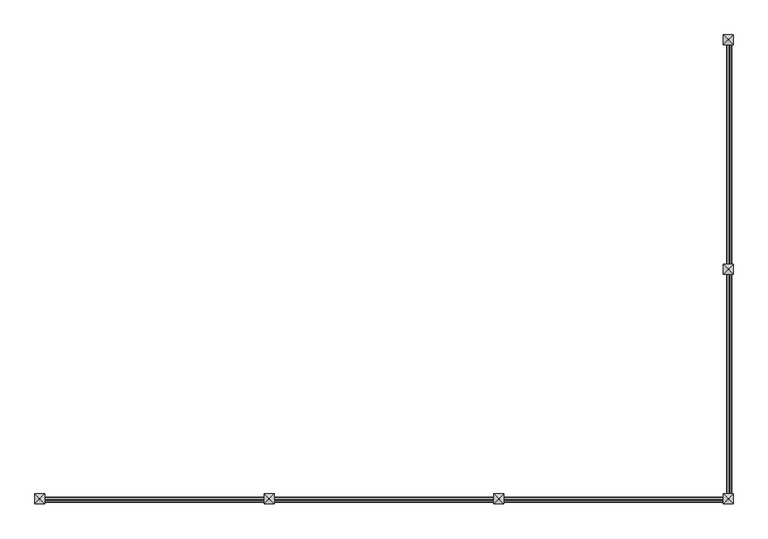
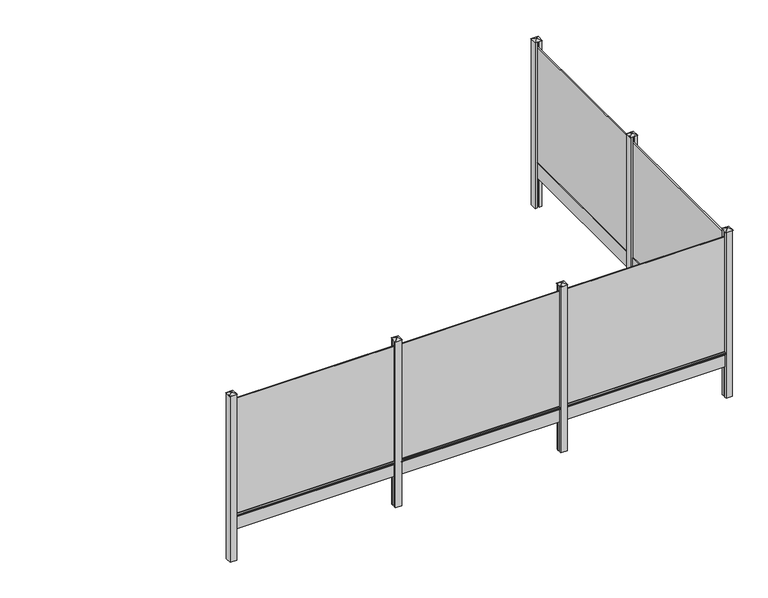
"""IFC4 building model written with IfcOpenShell, lengths in millimetres: railing geometry, Mehat - Railing - Plaque de Soubassement - Classique pour clôture rigide - 254x25x3.4 cm."""

import ifcopenshell
import ifcopenshell.guid

model = None  # the IFC model being written
_history = None  # IfcOwnerHistory: only IFC2X3 demands one
_inside = {}  # id of a spatial element -> (the spatial element, [elements in it])
_under = {}  # id of a project, library or spatial element -> (it, [spatial elements below it])
_declared = {}  # id of a project -> (the project, [libraries it declares])
_typed = {}  # id of a type object -> (the type object, [elements of that type])
_made_of = {}  # id of a material, layer set ... -> (it, [elements and type objects made of it])


def new_model(schema):
    """Start an empty IFC model of exactly this schema.

    Asked for "IFC4X3", IfcOpenShell would pick the latest addendum, in which some entities
    have other attributes; the version numbers below select the first issue.
    IFC2X3 requires an IfcOwnerHistory on every rooted entity: one is made here for all.
    """
    global model, _history
    if schema == "IFC4X3":
        model = ifcopenshell.file(schema_version=(4, 3, 0, 0))
    else:
        model = ifcopenshell.file(schema=schema)
    _inside.clear()
    _under.clear()
    _declared.clear()
    _typed.clear()
    _made_of.clear()
    _history = None
    if model.schema == "IFC2X3":
        org = make("IfcOrganization", Name="unknown")
        user = make(
            "IfcPersonAndOrganization",
            ThePerson=make("IfcPerson", FamilyName="unknown"),
            TheOrganization=org,
        )
        app = make(
            "IfcApplication",
            ApplicationDeveloper=org,
            Version="unknown",
            ApplicationFullName="unknown",
            ApplicationIdentifier="unknown",
        )
        _history = make(
            "IfcOwnerHistory",
            OwningUser=user,
            OwningApplication=app,
            ChangeAction="ADDED",
            CreationDate=0,
        )
    return model


def make(cls, **values):
    """One entity of the class cls with the attributes given. An attribute that is None is left unset."""
    return model.create_entity(
        cls, **{name: value for name, value in values.items() if value is not None}
    )


def rooted(cls, **values):
    """An entity with a GlobalId (a new one), such as an element, a storey or a relation."""
    return make(cls, GlobalId=ifcopenshell.guid.new(), OwnerHistory=_history, **values)


def si_unit(unit_type, name, prefix=None):
    """IfcSIUnit, for example si_unit("LENGTHUNIT", "METRE", prefix="MILLI")."""
    return make("IfcSIUnit", UnitType=unit_type, Prefix=prefix, Name=name)


def assignment(units):
    """IfcUnitAssignment: the units of a project."""
    return None if units is None else make("IfcUnitAssignment", Units=units)


def point(xyz):
    """IfcCartesianPoint."""
    return None if xyz is None else make("IfcCartesianPoint", Coordinates=xyz)


def direction(xyz):
    """IfcDirection."""
    return None if xyz is None else make("IfcDirection", DirectionRatios=xyz)


def frame(location, z_axis=None, x_axis=None):
    """IfcAxis2Placement3D, a coordinate frame: its origin and axes. An axis left out is left unset."""
    return make(
        "IfcAxis2Placement3D",
        Location=point(location),
        Axis=direction(z_axis),
        RefDirection=direction(x_axis),
    )


def frame_2d(location, x_axis=None):
    """IfcAxis2Placement2D, a coordinate frame in the plane: its origin and x axis."""
    return make(
        "IfcAxis2Placement2D", Location=point(location), RefDirection=direction(x_axis)
    )


def origin():
    """The frame at (0, 0, 0) with its axes left unset."""
    return frame((0.0, 0.0, 0.0))


def origin_with_axes():
    """The frame at (0, 0, 0) with the z axis (0, 0, 1) and the x axis (1, 0, 0) written out."""
    return frame((0.0, 0.0, 0.0), z_axis=(0.0, 0.0, 1.0), x_axis=(1.0, 0.0, 0.0))


def place(relative_to, where):
    """IfcLocalPlacement: puts the frame where relative to a parent placement (None: the world)."""
    return make(
        "IfcLocalPlacement", PlacementRelTo=relative_to, RelativePlacement=where
    )


def context(
    kind, dimensions, precision=None, world=None, true_north=None, identifier=None
):
    """IfcGeometricRepresentationContext, for example the 3D "Model" context."""
    return make(
        "IfcGeometricRepresentationContext",
        ContextIdentifier=identifier,
        ContextType=kind,
        CoordinateSpaceDimension=dimensions,
        Precision=precision,
        WorldCoordinateSystem=world,
        TrueNorth=true_north,
    )


def project(units=None, contexts=None):
    """IfcProject with its units and contexts."""
    return rooted(
        "IfcProject",
        Name="project",
        RepresentationContexts=contexts,
        UnitsInContext=assignment(units),
    )


def spatial(cls, under=None, at=None, **own):
    """A site, building, storey or space (cls), placed at a placement, below another one or the project."""
    s = rooted(cls, ObjectPlacement=at, **own)
    if under is not None:
        _under.setdefault(under.id(), (under, []))[1].append(s)
    return s


def polyline(points):
    """IfcPolyline through the points."""
    return make("IfcPolyline", Points=[point(p) for p in points])


def circle_curve(where, radius):
    """IfcCircle in the frame where."""
    return make("IfcCircle", Position=where, Radius=radius)


def trimmed(basis, trim1, trim2, sense, master):
    """IfcTrimmedCurve: the piece of a basis curve between two trims."""
    return make(
        "IfcTrimmedCurve",
        BasisCurve=basis,
        Trim1=trim1,
        Trim2=trim2,
        SenseAgreement=sense,
        MasterRepresentation=master,
    )


def segment(curve, same_sense, transition):
    """IfcCompositeCurveSegment."""
    return make(
        "IfcCompositeCurveSegment",
        Transition=transition,
        SameSense=same_sense,
        ParentCurve=curve,
    )


def composite_curve(segments, self_intersect=None):
    """IfcCompositeCurve: segments joined end to end."""
    return make("IfcCompositeCurve", Segments=segments, SelfIntersect=self_intersect)


def outline(outer, holes=None, kind="AREA"):
    """IfcArbitraryClosedProfileDef: a profile drawn as a closed curve; with holes, ...WithVoids."""
    if holes is None:
        return make("IfcArbitraryClosedProfileDef", ProfileType=kind, OuterCurve=outer)
    return make(
        "IfcArbitraryProfileDefWithVoids",
        ProfileType=kind,
        OuterCurve=outer,
        InnerCurves=holes,
    )


def extrude(swept, where, along, depth):
    """IfcExtrudedAreaSolid: the profile swept, set in the frame where, extruded along a direction by depth."""
    return make(
        "IfcExtrudedAreaSolid",
        SweptArea=swept,
        Position=where,
        ExtrudedDirection=direction(along),
        Depth=depth,
    )


def faces_of(points, faces, orient=None, outer=None):
    """IfcFace entities. A face is a list of loops; a loop is a list of indices into points, from 0.

    orient and outer hold one flag for each loop. By default every Orientation is true, the
    first loop of a face is its IfcFaceOuterBound and the others are IfcFaceBound.
    """
    made = []
    for i, loops in enumerate(faces):
        bounds = []
        for j, loop in enumerate(loops):
            is_outer = j == 0 if outer is None else outer[i][j]
            bounds.append(
                make(
                    "IfcFaceOuterBound" if is_outer else "IfcFaceBound",
                    Bound=make("IfcPolyLoop", Polygon=[points[k] for k in loop]),
                    Orientation=True if orient is None else orient[i][j],
                )
            )
        made.append(make("IfcFace", Bounds=bounds))
    return made


def faceted_brep(points, faces, orient=None, outer=None, voids=None):
    """IfcFacetedBrep: a solid bounded by flat faces; with voids (closed shells), ...WithVoids."""
    shared = [point(p) for p in points]
    hull = make("IfcClosedShell", CfsFaces=faces_of(shared, faces, orient, outer))
    if voids is None:
        return make("IfcFacetedBrep", Outer=hull)
    return make(
        "IfcFacetedBrepWithVoids",
        Outer=hull,
        Voids=[
            make(cls, CfsFaces=faces_of(shared, fs, o, b)) for cls, fs, o, b in voids
        ],
    )


def shape(context_of_items, identifier, shape_type, items):
    """IfcShapeRepresentation: the items that make up one representation, for example the "Body"."""
    return make(
        "IfcShapeRepresentation",
        ContextOfItems=context_of_items,
        RepresentationIdentifier=identifier,
        RepresentationType=shape_type,
        Items=items,
    )


def source(mapping_origin, context_of_items, identifier, shape_type, items):
    """IfcRepresentationMap: a shape defined once, which mapped items show again and again."""
    return make(
        "IfcRepresentationMap",
        MappingOrigin=mapping_origin,
        MappedRepresentation=shape(context_of_items, identifier, shape_type, items),
    )


def transform(
    local_origin,
    x_axis=None,
    y_axis=None,
    z_axis=None,
    scale=None,
    scale2=None,
    scale3=None,
    uniform=True,
):
    """IfcCartesianTransformationOperator3D, or its non-uniform kind. x_axis, y_axis, z_axis: its Axis1, 2, 3."""
    if uniform:
        return make(
            "IfcCartesianTransformationOperator3D",
            Axis1=direction(x_axis),
            Axis2=direction(y_axis),
            LocalOrigin=point(local_origin),
            Scale=scale,
            Axis3=direction(z_axis),
        )
    return make(
        "IfcCartesianTransformationOperator3DnonUniform",
        Axis1=direction(x_axis),
        Axis2=direction(y_axis),
        LocalOrigin=point(local_origin),
        Scale=scale,
        Axis3=direction(z_axis),
        Scale2=scale2,
        Scale3=scale3,
    )


def mapped(mapping_source, mapping_target):
    """IfcMappedItem: shows the shape of a source again, moved by a transform."""
    return make(
        "IfcMappedItem", MappingSource=mapping_source, MappingTarget=mapping_target
    )


def made_of(thing, what):
    """Note that an element or type object is made of a material, layer set ...; save() writes the relation."""
    if what is not None:
        _made_of.setdefault(what.id(), (what, []))[1].append(thing)
    return thing


def element(
    cls,
    number,
    at=None,
    inside=None,
    cuts=None,
    type_object=None,
    material=None,
    context=None,
    identifier="Body",
    shape_type=None,
    held_by="IfcProductDefinitionShape",
    body=None,
    shapes=None,
    **own,
):
    """One element of the class cls, such as IfcWall. Its Tag is "e" and its number.

    at: its placement. inside: the storey or other place that contains it. cuts: it is an
    opening in that element (IfcRelVoidsElement). A single representation is given by context,
    identifier, shape_type and body (its items); several are given by shapes. held_by: the class
    of the entity that holds the representations. save() writes the other relations.
    """
    e = rooted(cls, Tag="e%d" % number, ObjectPlacement=at, **own)
    if body is not None:
        shapes = [shape(context, identifier, shape_type, body)]
    if shapes is not None:
        e.Representation = make(held_by, Representations=shapes)
    if inside is not None:
        _inside.setdefault(inside.id(), (inside, []))[1].append(e)
    if cuts is not None:
        rooted(
            "IfcRelVoidsElement", RelatingBuildingElement=cuts, RelatedOpeningElement=e
        )
    if type_object is not None:
        _typed.setdefault(type_object.id(), (type_object, []))[1].append(e)
    return made_of(e, material)


def aggregate(whole, parts):
    """IfcRelAggregates: a whole, such as a stair, and the parts it consists of."""
    return rooted("IfcRelAggregates", RelatingObject=whole, RelatedObjects=parts)


def save(model, path):
    """Write the relations noted so far, then the file.

    IfcRelAggregates (storeys below a building ...), IfcRelContainedInSpatialStructure (elements
    in a storey), IfcRelDefinesByType, IfcRelAssociatesMaterial and IfcRelDeclares: one each for
    every whole, place, type object, material and project.
    """
    for whole, parts in _under.values():
        aggregate(whole, parts)
    for where, things in _inside.values():
        rooted(
            "IfcRelContainedInSpatialStructure",
            RelatedElements=things,
            RelatingStructure=where,
        )
    for kind, things in _typed.values():
        rooted("IfcRelDefinesByType", RelatedObjects=things, RelatingType=kind)
    for what, things in _made_of.values():
        rooted("IfcRelAssociatesMaterial", RelatedObjects=things, RelatingMaterial=what)
    for by, libraries in _declared.values():
        rooted("IfcRelDeclares", RelatingContext=by, RelatedDefinitions=libraries)
    model.write(path)


def railing_ca63146d(model_context):
    return source(origin(), model_context, "Body", "SolidModel", [
        extrude(outline(polyline([(50796.2516516, -11087.4943936), (50779.2516516, -11087.4943936), (50779.2516516, -8547.4943936), (50796.2516516, -8547.4943936), (50796.2516516, -11087.4943936)])), frame((0.0, 0.0, 250.0), z_axis=(0.0, 0.0, 1.0), x_axis=(1.0, 0.0, 0.0)), (0.0, 0.0, 1.0), 1900.0),
        extrude(outline(polyline([(50804.7516516, -11087.4943936), (50770.7516516, -11087.4943936), (50770.7516516, -8547.4943936), (50804.7516516, -8547.4943936), (50804.7516516, -11087.4943936)])), origin_with_axes(), (0.0, 0.0, 1.0), 250.0),
        extrude(outline(composite_curve([segment(polyline([(210.0, 50804.7516516), (217.1937129, 50826.3327905)]), True, "CONTINUOUS"), segment(trimmed(circle_curve(frame_2d((221.9371294, 50824.7516516)), 5.0), [point((217.1937129, 50826.3327905))], [point((221.9371294, 50829.7516516))], False, "CARTESIAN"), True, "CONTINUOUS"), segment(polyline([(221.9371294, 50829.7516516), (238.0628706, 50829.7516516)]), True, "CONTINUOUS"), segment(trimmed(circle_curve(frame_2d((238.0628706, 50824.7516516)), 5.0), [point((238.0628706, 50829.7516516))], [point((242.8062871, 50826.3327905))], False, "CARTESIAN"), True, "CONTINUOUS"), segment(polyline([(242.8062871, 50826.3327905), (250.0, 50804.7516516), (210.0, 50804.7516516)]), True, "CONTINUOUS")], self_intersect=False)), frame((0.0, -11062.4943936, 0.0), z_axis=(0.0, 1.0, 0.0), x_axis=(0.0, 0.0, 1.0)), (0.0, 0.0, 1.0), 2490.0),
        extrude(outline(polyline([(50837.7516516, -11162.4943936), (50804.7516516, -11162.4943936), (50804.7516516, -11137.4943936), (50770.7516516, -11137.4943936), (50770.7516516, -11162.4943936), (50737.7516516, -11162.4943936), (50737.7516516, -11062.4943936), (50770.7516516, -11062.4943936), (50770.7516516, -11087.4943936), (50804.7516516, -11087.4943936), (50804.7516516, -11062.4943936), (50837.7516516, -11062.4943936), (50837.7516516, -11162.4943936)])), frame((0.0, 0.0, -500.0), z_axis=(0.0, 0.0, 1.0), x_axis=(1.0, 0.0, 0.0)), (0.0, 0.0, 1.0), 2750.0),
        faceted_brep([(50781.3471055, -11106.1443936, 2275.4), (50781.3471055, -11118.8443936, 2275.4), (50794.0471055, -11118.8443936, 2275.4), (50794.0471055, -11106.1443936, 2275.4), (50731.4016516, -11056.1443936, 2250.0), (50844.1016516, -11056.1443936, 2250.0), (50844.1016516, -11168.8443936, 2250.0), (50731.4016516, -11168.8443936, 2250.0)], [[[0, 1, 2, 3]], [[4, 5, 6, 7]], [[4, 0, 3, 5]], [[5, 3, 2, 6]], [[6, 2, 1, 7]], [[7, 1, 0, 4]]]),
        extrude(outline(polyline([(50796.2516516, -13677.4943936), (50779.2516516, -13677.4943936), (50779.2516516, -11137.4943936), (50796.2516516, -11137.4943936), (50796.2516516, -13677.4943936)])), frame((0.0, 0.0, 250.0), z_axis=(0.0, 0.0, 1.0), x_axis=(1.0, 0.0, 0.0)), (0.0, 0.0, 1.0), 1900.0),
        extrude(outline(polyline([(50804.7516516, -13677.4943936), (50770.7516516, -13677.4943936), (50770.7516516, -11137.4943936), (50804.7516516, -11137.4943936), (50804.7516516, -13677.4943936)])), origin_with_axes(), (0.0, 0.0, 1.0), 250.0),
        extrude(outline(composite_curve([segment(polyline([(210.0, 50804.7516516), (217.1937129, 50826.3327905)]), True, "CONTINUOUS"), segment(trimmed(circle_curve(frame_2d((221.9371294, 50824.7516516)), 5.0), [point((217.1937129, 50826.3327905))], [point((221.9371294, 50829.7516516))], False, "CARTESIAN"), True, "CONTINUOUS"), segment(polyline([(221.9371294, 50829.7516516), (238.0628706, 50829.7516516)]), True, "CONTINUOUS"), segment(trimmed(circle_curve(frame_2d((238.0628706, 50824.7516516)), 5.0), [point((238.0628706, 50829.7516516))], [point((242.8062871, 50826.3327905))], False, "CARTESIAN"), True, "CONTINUOUS"), segment(polyline([(242.8062871, 50826.3327905), (250.0, 50804.7516516), (210.0, 50804.7516516)]), True, "CONTINUOUS")], self_intersect=False)), frame((0.0, -13652.4943936, 0.0), z_axis=(0.0, 1.0, 0.0), x_axis=(0.0, 0.0, 1.0)), (0.0, 0.0, 1.0), 2490.0),
        extrude(outline(polyline([(48222.7516516, -13710.9943936), (48222.7516516, -13693.9943936), (50762.7516516, -13693.9943936), (50762.7516516, -13710.9943936), (48222.7516516, -13710.9943936)])), frame((0.0, 0.0, 250.0), z_axis=(0.0, 0.0, 1.0), x_axis=(1.0, 0.0, 0.0)), (0.0, 0.0, 1.0), 1900.0),
        extrude(outline(polyline([(48222.7516516, -13719.4943936), (48222.7516516, -13685.4943936), (50762.7516516, -13685.4943936), (50762.7516516, -13719.4943936), (48222.7516516, -13719.4943936)])), origin_with_axes(), (0.0, 0.0, 1.0), 250.0),
        extrude(outline(composite_curve([segment(polyline([(-13719.4943936, 210.0), (-13741.0755325, 217.1937129)]), True, "CONTINUOUS"), segment(trimmed(circle_curve(frame_2d((-13739.4943936, 221.9371294)), 5.0), [point((-13741.0755325, 217.1937129))], [point((-13744.4943936, 221.9371294))], False, "CARTESIAN"), True, "CONTINUOUS"), segment(polyline([(-13744.4943936, 221.9371294), (-13744.4943936, 238.0628706)]), True, "CONTINUOUS"), segment(trimmed(circle_curve(frame_2d((-13739.4943936, 238.0628706)), 5.0), [point((-13744.4943936, 238.0628706))], [point((-13741.0755325, 242.8062871))], False, "CARTESIAN"), True, "CONTINUOUS"), segment(polyline([(-13741.0755325, 242.8062871), (-13719.4943936, 250.0), (-13719.4943936, 210.0)]), True, "CONTINUOUS")], self_intersect=False)), frame((48247.7516516, 0.0, 0.0), z_axis=(1.0, 0.0, 0.0), x_axis=(0.0, 1.0, 0.0)), (0.0, 0.0, 1.0), 2490.0),
        extrude(outline(polyline([(48147.7516516, -13752.4943936), (48147.7516516, -13719.4943936), (48172.7516516, -13719.4943936), (48172.7516516, -13685.4943936), (48147.7516516, -13685.4943936), (48147.7516516, -13652.4943936), (48247.7516516, -13652.4943936), (48247.7516516, -13685.4943936), (48222.7516516, -13685.4943936), (48222.7516516, -13719.4943936), (48247.7516516, -13719.4943936), (48247.7516516, -13752.4943936), (48147.7516516, -13752.4943936)])), frame((0.0, 0.0, -500.0), z_axis=(0.0, 0.0, 1.0), x_axis=(1.0, 0.0, 0.0)), (0.0, 0.0, 1.0), 2750.0),
        faceted_brep([(48204.1016516, -13696.0898475, 2275.4), (48191.4016516, -13696.0898475, 2275.4), (48191.4016516, -13708.7898475, 2275.4), (48204.1016516, -13708.7898475, 2275.4), (48254.1016516, -13646.1443936, 2250.0), (48254.1016516, -13758.8443936, 2250.0), (48141.4016516, -13758.8443936, 2250.0), (48141.4016516, -13646.1443936, 2250.0)], [[[0, 1, 2, 3]], [[4, 5, 6, 7]], [[4, 0, 3, 5]], [[5, 3, 2, 6]], [[6, 2, 1, 7]], [[7, 1, 0, 4]]]),
        extrude(outline(polyline([(45632.7516516, -13710.9943936), (45632.7516516, -13693.9943936), (48172.7516516, -13693.9943936), (48172.7516516, -13710.9943936), (45632.7516516, -13710.9943936)])), frame((0.0, 0.0, 250.0), z_axis=(0.0, 0.0, 1.0), x_axis=(1.0, 0.0, 0.0)), (0.0, 0.0, 1.0), 1900.0),
        extrude(outline(polyline([(45632.7516516, -13719.4943936), (45632.7516516, -13685.4943936), (48172.7516516, -13685.4943936), (48172.7516516, -13719.4943936), (45632.7516516, -13719.4943936)])), origin_with_axes(), (0.0, 0.0, 1.0), 250.0),
        extrude(outline(composite_curve([segment(polyline([(-13719.4943936, 210.0), (-13741.0755325, 217.1937129)]), True, "CONTINUOUS"), segment(trimmed(circle_curve(frame_2d((-13739.4943936, 221.9371294)), 5.0), [point((-13741.0755325, 217.1937129))], [point((-13744.4943936, 221.9371294))], False, "CARTESIAN"), True, "CONTINUOUS"), segment(polyline([(-13744.4943936, 221.9371294), (-13744.4943936, 238.0628706)]), True, "CONTINUOUS"), segment(trimmed(circle_curve(frame_2d((-13739.4943936, 238.0628706)), 5.0), [point((-13744.4943936, 238.0628706))], [point((-13741.0755325, 242.8062871))], False, "CARTESIAN"), True, "CONTINUOUS"), segment(polyline([(-13741.0755325, 242.8062871), (-13719.4943936, 250.0), (-13719.4943936, 210.0)]), True, "CONTINUOUS")], self_intersect=False)), frame((45657.7516516, 0.0, 0.0), z_axis=(1.0, 0.0, 0.0), x_axis=(0.0, 1.0, 0.0)), (0.0, 0.0, 1.0), 2490.0),
        extrude(outline(polyline([(45557.7516516, -13752.4943936), (45557.7516516, -13719.4943936), (45582.7516516, -13719.4943936), (45582.7516516, -13685.4943936), (45557.7516516, -13685.4943936), (45557.7516516, -13652.4943936), (45657.7516516, -13652.4943936), (45657.7516516, -13685.4943936), (45632.7516516, -13685.4943936), (45632.7516516, -13719.4943936), (45657.7516516, -13719.4943936), (45657.7516516, -13752.4943936), (45557.7516516, -13752.4943936)])), frame((0.0, 0.0, -500.0), z_axis=(0.0, 0.0, 1.0), x_axis=(1.0, 0.0, 0.0)), (0.0, 0.0, 1.0), 2750.0),
        faceted_brep([(45614.1016516, -13696.0898475, 2275.4), (45601.4016516, -13696.0898475, 2275.4), (45601.4016516, -13708.7898475, 2275.4), (45614.1016516, -13708.7898475, 2275.4), (45664.1016516, -13646.1443936, 2250.0), (45664.1016516, -13758.8443936, 2250.0), (45551.4016516, -13758.8443936, 2250.0), (45551.4016516, -13646.1443936, 2250.0)], [[[0, 1, 2, 3]], [[4, 5, 6, 7]], [[4, 0, 3, 5]], [[5, 3, 2, 6]], [[6, 2, 1, 7]], [[7, 1, 0, 4]]]),
        extrude(outline(polyline([(43042.7516516, -13710.9943936), (43042.7516516, -13693.9943936), (45582.7516516, -13693.9943936), (45582.7516516, -13710.9943936), (43042.7516516, -13710.9943936)])), frame((0.0, 0.0, 250.0), z_axis=(0.0, 0.0, 1.0), x_axis=(1.0, 0.0, 0.0)), (0.0, 0.0, 1.0), 1900.0),
        extrude(outline(polyline([(43042.7516516, -13719.4943936), (43042.7516516, -13685.4943936), (45582.7516516, -13685.4943936), (45582.7516516, -13719.4943936), (43042.7516516, -13719.4943936)])), origin_with_axes(), (0.0, 0.0, 1.0), 250.0),
        extrude(outline(composite_curve([segment(polyline([(-13719.4943936, 210.0), (-13741.0755325, 217.1937129)]), True, "CONTINUOUS"), segment(trimmed(circle_curve(frame_2d((-13739.4943936, 221.9371294)), 5.0), [point((-13741.0755325, 217.1937129))], [point((-13744.4943936, 221.9371294))], False, "CARTESIAN"), True, "CONTINUOUS"), segment(polyline([(-13744.4943936, 221.9371294), (-13744.4943936, 238.0628706)]), True, "CONTINUOUS"), segment(trimmed(circle_curve(frame_2d((-13739.4943936, 238.0628706)), 5.0), [point((-13744.4943936, 238.0628706))], [point((-13741.0755325, 242.8062871))], False, "CARTESIAN"), True, "CONTINUOUS"), segment(polyline([(-13741.0755325, 242.8062871), (-13719.4943936, 250.0), (-13719.4943936, 210.0)]), True, "CONTINUOUS")], self_intersect=False)), frame((43067.7516516, 0.0, 0.0), z_axis=(1.0, 0.0, 0.0), x_axis=(0.0, 1.0, 0.0)), (0.0, 0.0, 1.0), 2490.0),
        extrude(outline(polyline([(50737.7516516, -13752.4943936), (50737.7516516, -13719.4943936), (50762.7516516, -13719.4943936), (50762.7516516, -13685.4943936), (50737.7516516, -13685.4943936), (50737.7516516, -13652.4943936), (50770.7516516, -13652.4943936), (50770.7516516, -13677.4943936), (50804.7516516, -13677.4943936), (50804.7516516, -13652.4943936), (50837.7516516, -13652.4943936), (50837.7516516, -13752.4943936), (50737.7516516, -13752.4943936)])), frame((0.0, 0.0, -500.0), z_axis=(0.0, 0.0, 1.0), x_axis=(1.0, 0.0, 0.0)), (0.0, 0.0, 1.0), 2750.0),
        faceted_brep([(50794.1016516, -13696.0898475, 2275.4), (50781.4016516, -13696.0898475, 2275.4), (50781.4016516, -13708.7898475, 2275.4), (50794.1016516, -13708.7898475, 2275.4), (50844.1016516, -13646.1443936, 2250.0), (50844.1016516, -13758.8443936, 2250.0), (50731.4016516, -13758.8443936, 2250.0), (50731.4016516, -13646.1443936, 2250.0)], [[[0, 1, 2, 3]], [[4, 5, 6, 7]], [[4, 0, 3, 5]], [[5, 3, 2, 6]], [[6, 2, 1, 7]], [[7, 1, 0, 4]]]),
        extrude(outline(polyline([(50837.7516516, -8572.4943936), (50804.7516516, -8572.4943936), (50804.7516516, -8547.4943936), (50770.7516516, -8547.4943936), (50770.7516516, -8572.4943936), (50737.7516516, -8572.4943936), (50737.7516516, -8472.4943936), (50837.7516516, -8472.4943936), (50837.7516516, -8572.4943936)])), frame((0.0, 0.0, -500.0), z_axis=(0.0, 0.0, 1.0), x_axis=(1.0, 0.0, 0.0)), (0.0, 0.0, 1.0), 2750.0),
        faceted_brep([(50781.3471055, -8516.1443936, 2275.4), (50781.3471055, -8528.8443936, 2275.4), (50794.0471055, -8528.8443936, 2275.4), (50794.0471055, -8516.1443936, 2275.4), (50731.4016516, -8466.1443936, 2250.0), (50844.1016516, -8466.1443936, 2250.0), (50844.1016516, -8578.8443936, 2250.0), (50731.4016516, -8578.8443936, 2250.0)], [[[0, 1, 2, 3]], [[4, 5, 6, 7]], [[4, 0, 3, 5]], [[5, 3, 2, 6]], [[6, 2, 1, 7]], [[7, 1, 0, 4]]]),
        extrude(outline(polyline([(42967.7516516, -13752.4943936), (42967.7516516, -13652.4943936), (43067.7516516, -13652.4943936), (43067.7516516, -13685.4943936), (43042.7516516, -13685.4943936), (43042.7516516, -13719.4943936), (43067.7516516, -13719.4943936), (43067.7516516, -13752.4943936), (42967.7516516, -13752.4943936)])), frame((0.0, 0.0, -500.0), z_axis=(0.0, 0.0, 1.0), x_axis=(1.0, 0.0, 0.0)), (0.0, 0.0, 1.0), 2750.0),
        faceted_brep([(43024.1016516, -13696.0898475, 2275.4), (43011.4016516, -13696.0898475, 2275.4), (43011.4016516, -13708.7898475, 2275.4), (43024.1016516, -13708.7898475, 2275.4), (43074.1016516, -13646.1443936, 2250.0), (43074.1016516, -13758.8443936, 2250.0), (42961.4016516, -13758.8443936, 2250.0), (42961.4016516, -13646.1443936, 2250.0)], [[[0, 1, 2, 3]], [[4, 5, 6, 7]], [[4, 0, 3, 5]], [[5, 3, 2, 6]], [[6, 2, 1, 7]], [[7, 1, 0, 4]]]),
    ])


if __name__ == "__main__":
    model = new_model("IFC4")
    model_context = context("Model", 3, world=origin())
    ifc_project = project(units=[si_unit("LENGTHUNIT", "METRE", prefix="MILLI")], contexts=[model_context])
    site = spatial("IfcSite", under=ifc_project)
    building = spatial("IfcBuilding", under=site)
    placement = place(None, origin())
    railing_shape = railing_ca63146d(model_context)
    element("IfcRailing", 1, ObjectType="Mehat - Railing - Plaque de Soubassement - Classique pour clôture rigide - 254x25x3.4 cm", at=placement, inside=building, context=model_context, shape_type="MappedRepresentation", body=[
        mapped(railing_shape, transform((0.0, 0.0, 0.0), x_axis=(1.0, 0.0, 0.0), y_axis=(0.0, 1.0, 0.0), z_axis=(0.0, 0.0, 1.0))),
    ])
    save(model, "model.ifc")
